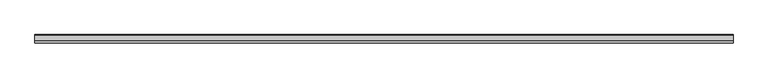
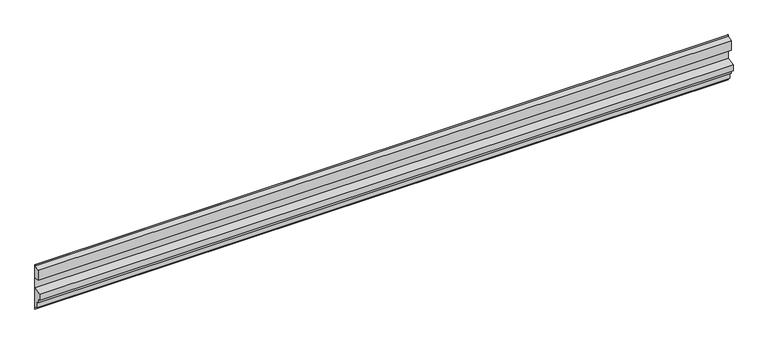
"""IFC4 building model written with IfcOpenShell, lengths in millimetres: plate geometry, ATELIERS 3S_NEW YORK MANHATTAN 780_HORIZONTAL : AZURO."""

from ifc_helpers import new_model, si_unit, frame, origin, place, context, project, spatial, polyline, outline, extrude, source, transform, mapped, element, save


def plate_1524a55d(model_context):
    return source(origin(), model_context, "Body", "SweptSolid", [
        extrude(outline(polyline([(-0.75, 328.5800585), (-0.75, 340.0), (0.0, 340.0), (0.0, 0.0), (-0.8, 0.0), (-0.8, 19.6941775), (-20.7501589, 23.211221), (-20.7501589, 68.2118488), (-40.7500015, 71.7384174), (-40.7500015, 101.7384166), (-60.7500001, 105.2649565), (-60.7500001, 150.8942812), (-0.75, 161.4739), (-0.75, 238.8445753), (-40.75, 245.8976546), (-40.75, 321.5269793), (-0.75, 328.5800585)])), frame((-2500.0, 0.0, 0.0), z_axis=(1.0, 0.0, 0.0), x_axis=(0.0, 1.0, 0.0)), (0.0, 0.0, 1.0), 5000.0),
    ])


if __name__ == "__main__":
    model = new_model("IFC4")
    model_context = context("Model", 3, world=origin())
    ifc_project = project(units=[si_unit("LENGTHUNIT", "METRE", prefix="MILLI")], contexts=[model_context])
    site = spatial("IfcSite", under=ifc_project)
    building = spatial("IfcBuilding", under=site)
    placement = place(None, origin())
    plate_shape = plate_1524a55d(model_context)
    element("IfcPlate", 1, ObjectType="ATELIERS 3S_NEW YORK MANHATTAN 780_HORIZONTAL : AZURO", at=placement, inside=building, context=model_context, shape_type="MappedRepresentation", body=[
        mapped(plate_shape, transform((0.0, 0.0, 0.0), x_axis=(1.0, 0.0, 0.0), y_axis=(0.0, 1.0, 0.0), z_axis=(0.0, 0.0, 1.0))),
    ])
    save(model, "model.ifc")
